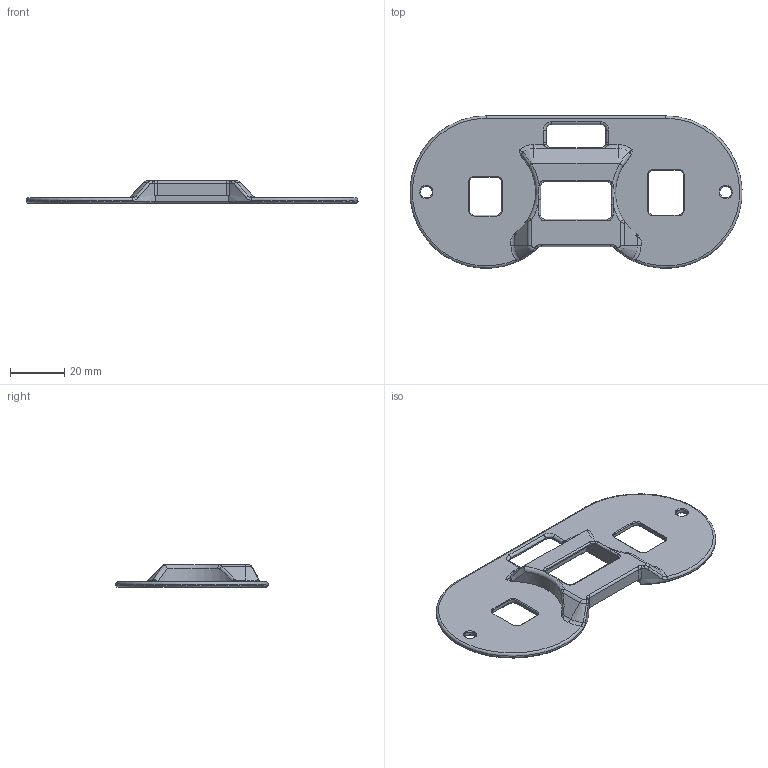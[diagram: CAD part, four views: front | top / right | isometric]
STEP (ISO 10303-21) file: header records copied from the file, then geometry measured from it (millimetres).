
FILE_DESCRIPTION(/* description */ (''),/* implementation_level */ '2;1');
FILE_NAME(/* name */ 'OSSM - Remote - Cover.step',/* time_stamp */ '2023-02-08T09:01:48-08:00',/* author */ (''),/* organization */ (''),/* preprocessor_version */ 'ST-DEVELOPER v19.2',/* originating_system */ 'Autodesk Translation Framework v11.17.0.187',/* authorisation */ '');
FILE_SCHEMA (('AUTOMOTIVE_DESIGN { 1 0 10303 214 3 1 1 }'));
Length unit declared in the file: millimetre
Products named in the file (1): (Unsaved)
Bounding box: 121.96 x 55.93 x 8.3 mm (x, y, z)
Volume: 12010.6 mm3; surface area: 11797.6 mm2
Topology: 1 solids, 1 shells, 184 faces, 447 edges, 262 vertices
Faces by surface type: plane 64, cylinder 40, cone 30, bspline 30, torus 20
Full cylindrical faces by diameter (mm): 4.3 x2
Entity records: 6293 total; most frequent: CARTESIAN_POINT 2001, ORIENTED_EDGE 894, DIRECTION 891, EDGE_CURVE 447, AXIS2_PLACEMENT_3D 336, VERTEX_POINT 262, LINE 219, VECTOR 219
